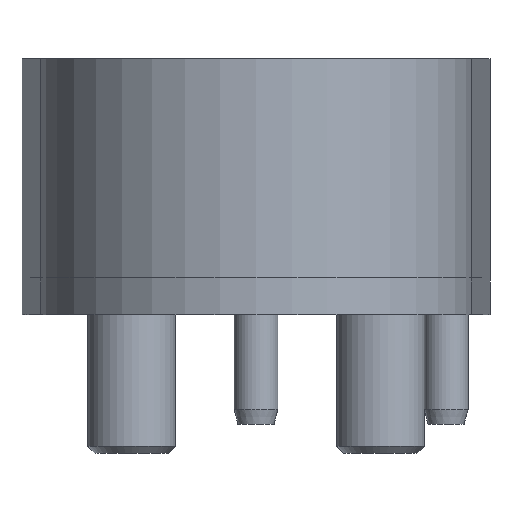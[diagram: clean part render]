
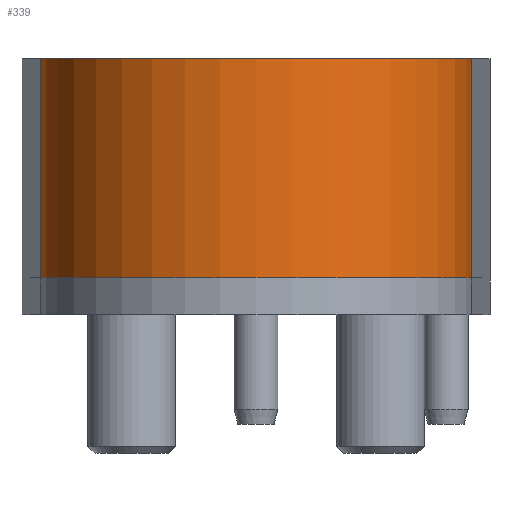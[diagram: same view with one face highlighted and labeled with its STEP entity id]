
A CAD part, left-side view. The second image highlights one B-rep face of the part: STEP entity #339.
In plain terms, the highlighted cylindrical face has radius 29.5 mm (diameter 59 mm), a partial arc.
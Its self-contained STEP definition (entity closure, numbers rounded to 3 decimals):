
#252=CYLINDRICAL_SURFACE('',#2658,29.5);
#339=ADVANCED_FACE('',(#513),#252,.T.);
#513=FACE_OUTER_BOUND('',#663,.T.);
#663=EDGE_LOOP('',(#1149,#1150,#1151,#1152));
#845=CIRCLE('',#2656,29.5);
#846=CIRCLE('',#2657,29.5);
#1149=ORIENTED_EDGE('',*,*,#1941,.T.);
#1150=ORIENTED_EDGE('',*,*,#1942,.F.);
#1151=ORIENTED_EDGE('',*,*,#1943,.F.);
#1152=ORIENTED_EDGE('',*,*,#1944,.T.);
#1685=VERTEX_POINT('',#3915);
#1686=VERTEX_POINT('',#3916);
#1687=VERTEX_POINT('',#3918);
#1688=VERTEX_POINT('',#3920);
#1941=EDGE_CURVE('',#1685,#1686,#2223,.T.);
#1942=EDGE_CURVE('',#1687,#1686,#845,.T.);
#1943=EDGE_CURVE('',#1688,#1687,#2224,.T.);
#1944=EDGE_CURVE('',#1688,#1685,#846,.T.);
#2223=LINE('',#3914,#2413);
#2224=LINE('',#3919,#2414);
#2413=VECTOR('',#3104,1.);
#2414=VECTOR('',#3107,1.);
#2656=AXIS2_PLACEMENT_3D('',#3917,#3105,#3106);
#2657=AXIS2_PLACEMENT_3D('',#3921,#3108,#3109);
#2658=AXIS2_PLACEMENT_3D('',#3922,#3110,#3111);
#3104=DIRECTION('',(0.,0.,1.));
#3105=DIRECTION('',(0.,0.,1.));
#3106=DIRECTION('',(1.,0.,0.));
#3107=DIRECTION('',(0.,0.,1.));
#3108=DIRECTION('',(0.,0.,1.));
#3109=DIRECTION('',(1.,0.,0.));
#3110=DIRECTION('',(0.,0.,1.));
#3111=DIRECTION('',(-1.,0.,0.));
#3914=CARTESIAN_POINT('',(-1.989,-29.433,5.));
#3915=CARTESIAN_POINT('',(-1.989,-29.433,5.));
#3916=CARTESIAN_POINT('',(-1.989,-29.433,35.));
#3917=CARTESIAN_POINT('',(0.,0.,35.));
#3918=CARTESIAN_POINT('',(-1.989,29.433,35.));
#3919=CARTESIAN_POINT('',(-1.989,29.433,5.));
#3920=CARTESIAN_POINT('',(-1.989,29.433,5.));
#3921=CARTESIAN_POINT('',(0.,0.,5.));
#3922=CARTESIAN_POINT('',(0.,0.,0.));
